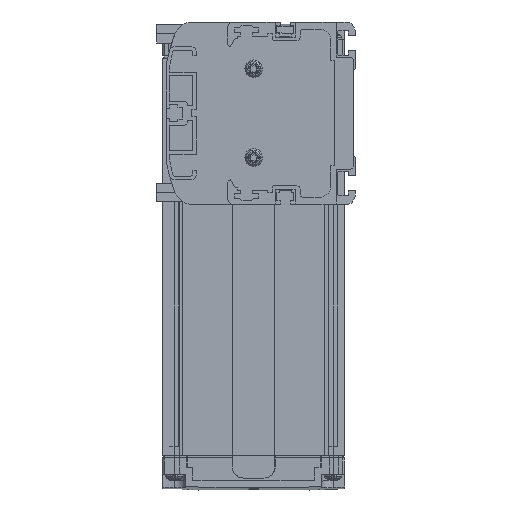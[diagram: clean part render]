
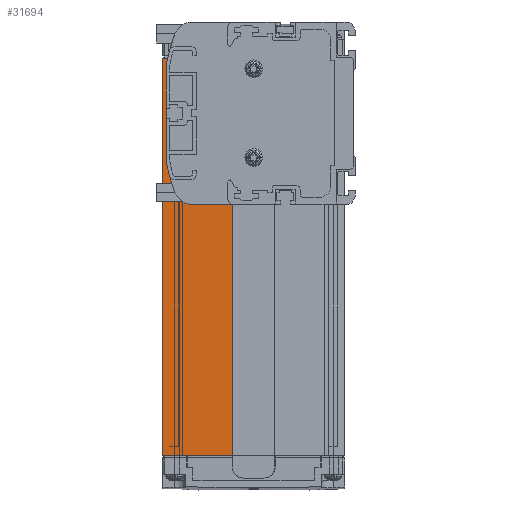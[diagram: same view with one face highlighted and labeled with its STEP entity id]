
A CAD part, left-side view. The second image highlights one B-rep face of the part: STEP entity #31694.
In plain terms, the highlighted planar face has unit normal (-1, 0, 0).
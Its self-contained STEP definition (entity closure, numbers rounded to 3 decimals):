
#5015=CARTESIAN_POINT('',(3.,79.,19.823));
#5016=DIRECTION('',(1.,0.,0.));
#5017=DIRECTION('',(0.,1.,0.));
#5018=AXIS2_PLACEMENT_3D('',#5015,#5016,#5017);
#5028=DIRECTION('',(0.,0.,1.));
#5029=VECTOR('',#5028,39.645);
#5030=CARTESIAN_POINT('',(3.,81.,-19.823));
#5031=LINE('',#5030,#5029);
#5068=CARTESIAN_POINT('',(3.,79.,-19.823));
#5069=DIRECTION('',(-1.,0.,0.));
#5070=DIRECTION('',(0.,1.,0.));
#5071=AXIS2_PLACEMENT_3D('',#5068,#5069,#5070);
#5077=CARTESIAN_POINT('',(3.,2.235,-6.));
#5078=DIRECTION('',(1.,0.,0.));
#5079=DIRECTION('',(0.,0.938,-0.347));
#5080=AXIS2_PLACEMENT_3D('',#5077,#5078,#5079);
#5412=CARTESIAN_POINT('',(3.,2.235,6.));
#5413=DIRECTION('',(1.,0.,0.));
#5414=DIRECTION('',(0.,0.984,0.177));
#5415=AXIS2_PLACEMENT_3D('',#5412,#5413,#5414);
#5430=DIRECTION('',(0.,-1.,0.));
#5431=VECTOR('',#5430,29.9);
#5432=CARTESIAN_POINT('',(3.,82.5,-146.5));
#5433=LINE('',#5432,#5431);
#5434=DIRECTION('',(0.,1.,0.));
#5435=VECTOR('',#5434,2.203);
#5436=CARTESIAN_POINT('',(3.,80.297,23.5));
#5437=LINE('',#5436,#5435);
#5438=DIRECTION('',(0.,-1.,0.));
#5439=VECTOR('',#5438,17.155);
#5440=CARTESIAN_POINT('',(3.,69.755,-39.));
#5441=LINE('',#5440,#5439);
#5476=CARTESIAN_POINT('',(3.,69.755,-31.));
#5477=DIRECTION('',(1.,0.,0.));
#5478=DIRECTION('',(0.,0.,-1.));
#5479=AXIS2_PLACEMENT_3D('',#5476,#5477,#5478);
#11326=DIRECTION('',(0.,0.,1.));
#11327=VECTOR('',#11326,170.);
#11328=CARTESIAN_POINT('',(3.,82.5,-146.5));
#11329=LINE('',#11328,#11327);
#13623=DIRECTION('',(0.,0.,1.));
#13624=VECTOR('',#13623,107.5);
#13625=CARTESIAN_POINT('',(3.,52.6,-146.5));
#13626=LINE('',#13625,#13624);
#19511=CARTESIAN_POINT('',(3.,82.5,23.5));
#19512=VERTEX_POINT('',#19511);
#19557=CARTESIAN_POINT('',(3.,82.5,-146.5));
#19558=VERTEX_POINT('',#19557);
#19559=CARTESIAN_POINT('',(3.,52.6,-146.5));
#19560=VERTEX_POINT('',#19559);
#23945=CARTESIAN_POINT('',(3.,69.755,-39.));
#23946=CARTESIAN_POINT('',(3.,52.6,-39.));
#23947=VERTEX_POINT('',#23945);
#23948=VERTEX_POINT('',#23946);
#23949=CARTESIAN_POINT('',(3.,80.297,23.5));
#23951=VERTEX_POINT('',#23949);
#23973=CARTESIAN_POINT('',(3.,81.,-19.823));
#23974=CARTESIAN_POINT('',(3.,80.968,-20.177));
#23975=VERTEX_POINT('',#23973);
#23976=VERTEX_POINT('',#23974);
#23977=CARTESIAN_POINT('',(3.,77.257,-33.778));
#23978=VERTEX_POINT('',#23977);
#23991=CARTESIAN_POINT('',(3.,80.968,20.177));
#23992=VERTEX_POINT('',#23991);
#23993=CARTESIAN_POINT('',(3.,81.,19.823));
#23994=VERTEX_POINT('',#23993);
#31670=CARTESIAN_POINT('',(3.,67.55,-61.5));
#31671=DIRECTION('',(1.,0.,0.));
#31672=DIRECTION('',(0.,1.,0.));
#31673=AXIS2_PLACEMENT_3D('',#31670,#31671,#31672);
#31674=PLANE('',#31673);
#31676=ORIENTED_EDGE('',*,*,#31675,.T.);
#31678=ORIENTED_EDGE('',*,*,#31677,.F.);
#31680=ORIENTED_EDGE('',*,*,#31679,.F.);
#31682=ORIENTED_EDGE('',*,*,#31681,.T.);
#31684=ORIENTED_EDGE('',*,*,#31683,.F.);
#31685=ORIENTED_EDGE('',*,*,#31654,.F.);
#31686=ORIENTED_EDGE('',*,*,#31086,.F.);
#31687=ORIENTED_EDGE('',*,*,#31101,.F.);
#31688=ORIENTED_EDGE('',*,*,#31140,.T.);
#31689=ORIENTED_EDGE('',*,*,#31157,.F.);
#31691=ORIENTED_EDGE('',*,*,#31690,.F.);
#31692=EDGE_LOOP('',(#31676,#31678,#31680,#31682,#31684,#31685,#31686,#31687,
#31688,#31689,#31691));
#31693=FACE_OUTER_BOUND('',#31692,.F.);
#31694=ADVANCED_FACE('',(#31693),#31674,.F.);
#5019=CIRCLE('',#5018,2.);
#5072=CIRCLE('',#5071,2.);
#5081=CIRCLE('',#5080,80.);
#5416=CIRCLE('',#5415,80.);
#5480=CIRCLE('',#5479,8.);
#31086=EDGE_CURVE('',#23994,#23992,#5019,.T.);
#31101=EDGE_CURVE('',#23975,#23994,#5031,.T.);
#31140=EDGE_CURVE('',#23975,#23976,#5072,.T.);
#31157=EDGE_CURVE('',#23978,#23976,#5081,.T.);
#31654=EDGE_CURVE('',#23992,#23951,#5416,.T.);
#31675=EDGE_CURVE('',#23947,#23948,#5441,.T.);
#31677=EDGE_CURVE('',#19560,#23948,#13626,.T.);
#31679=EDGE_CURVE('',#19558,#19560,#5433,.T.);
#31681=EDGE_CURVE('',#19558,#19512,#11329,.T.);
#31683=EDGE_CURVE('',#23951,#19512,#5437,.T.);
#31690=EDGE_CURVE('',#23947,#23978,#5480,.T.);
